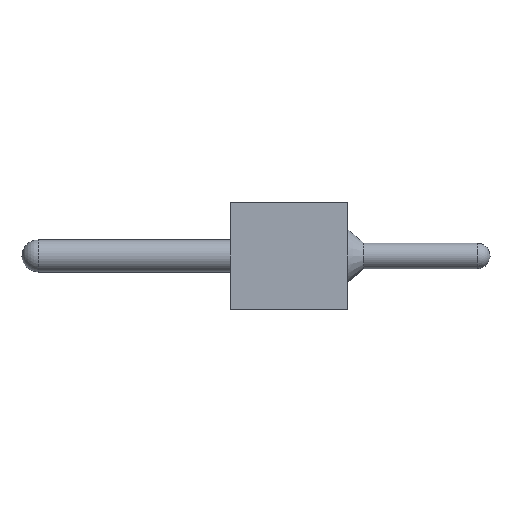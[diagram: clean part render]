
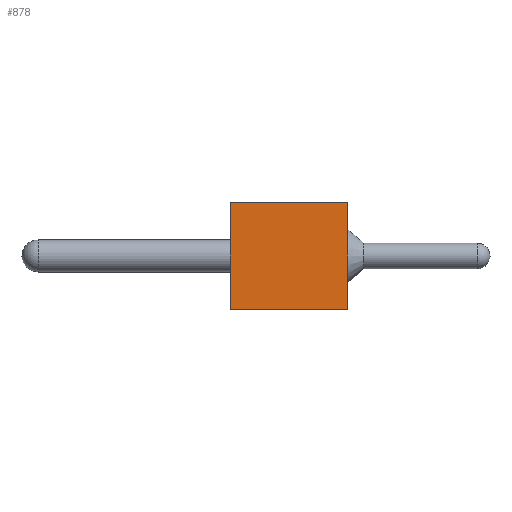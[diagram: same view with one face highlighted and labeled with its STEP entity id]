
A CAD part, left-side view. The second image highlights one B-rep face of the part: STEP entity #878.
In plain terms, the highlighted planar face has unit normal (-1, 0, 0).
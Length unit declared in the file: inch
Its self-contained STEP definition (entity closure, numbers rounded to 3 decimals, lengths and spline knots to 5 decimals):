
#28=PLANE('',#960);
#66=LINE('',#1353,#141);
#67=LINE('',#1355,#142);
#68=LINE('',#1357,#143);
#69=LINE('',#1358,#144);
#141=VECTOR('',#1081,0.3937);
#142=VECTOR('',#1082,0.3937);
#143=VECTOR('',#1083,0.3937);
#144=VECTOR('',#1084,0.3937);
#228=FACE_OUTER_BOUND('',#283,.T.);
#283=EDGE_LOOP('',(#615,#616,#617,#618));
#397=VERTEX_POINT('',#1351);
#398=VERTEX_POINT('',#1352);
#399=VERTEX_POINT('',#1354);
#400=VERTEX_POINT('',#1356);
#485=EDGE_CURVE('',#397,#398,#66,.T.);
#486=EDGE_CURVE('',#397,#399,#67,.T.);
#487=EDGE_CURVE('',#400,#399,#68,.T.);
#488=EDGE_CURVE('',#398,#400,#69,.T.);
#615=ORIENTED_EDGE('',*,*,#485,.F.);
#616=ORIENTED_EDGE('',*,*,#486,.T.);
#617=ORIENTED_EDGE('',*,*,#487,.F.);
#618=ORIENTED_EDGE('',*,*,#488,.F.);
#878=ADVANCED_FACE('',(#228),#28,.T.);
#960=AXIS2_PLACEMENT_3D('',#1350,#1079,#1080);
#1079=DIRECTION('center_axis',(-1.,0.,0.));
#1080=DIRECTION('ref_axis',(0.,0.,1.));
#1081=DIRECTION('',(0.,0.,-1.));
#1082=DIRECTION('',(0.,1.,0.));
#1083=DIRECTION('',(0.,0.,1.));
#1084=DIRECTION('',(0.,1.,0.));
#1350=CARTESIAN_POINT('Origin',(0.,0.,0.));
#1351=CARTESIAN_POINT('',(0.,0.,0.1));
#1352=CARTESIAN_POINT('',(0.,0.,0.));
#1353=CARTESIAN_POINT('',(0.,0.,0.1));
#1354=CARTESIAN_POINT('',(0.,0.11,0.1));
#1355=CARTESIAN_POINT('',(0.,0.,0.1));
#1356=CARTESIAN_POINT('',(0.,0.11,0.));
#1357=CARTESIAN_POINT('',(0.,0.11,0.1));
#1358=CARTESIAN_POINT('',(0.,0.,0.));
